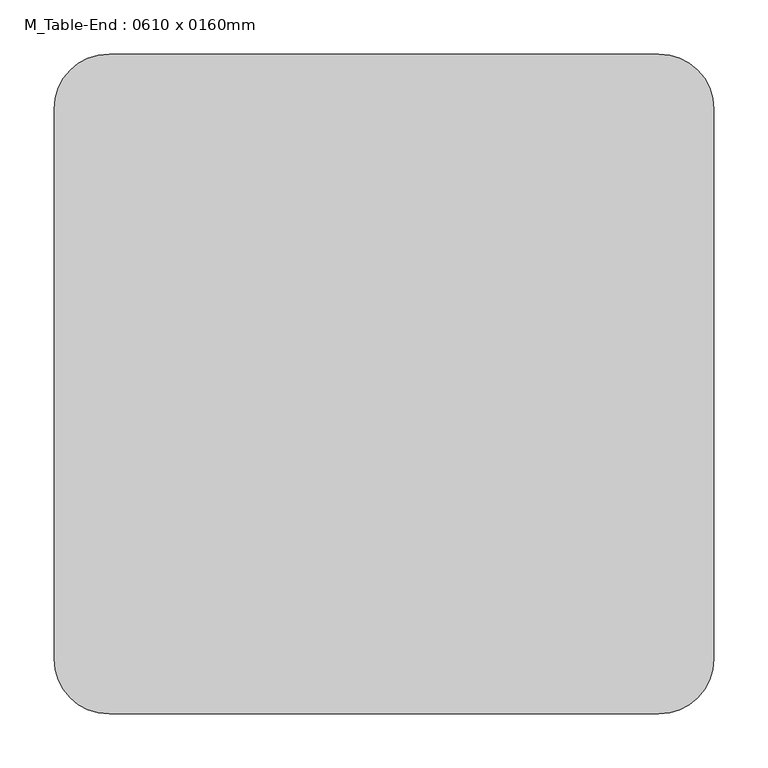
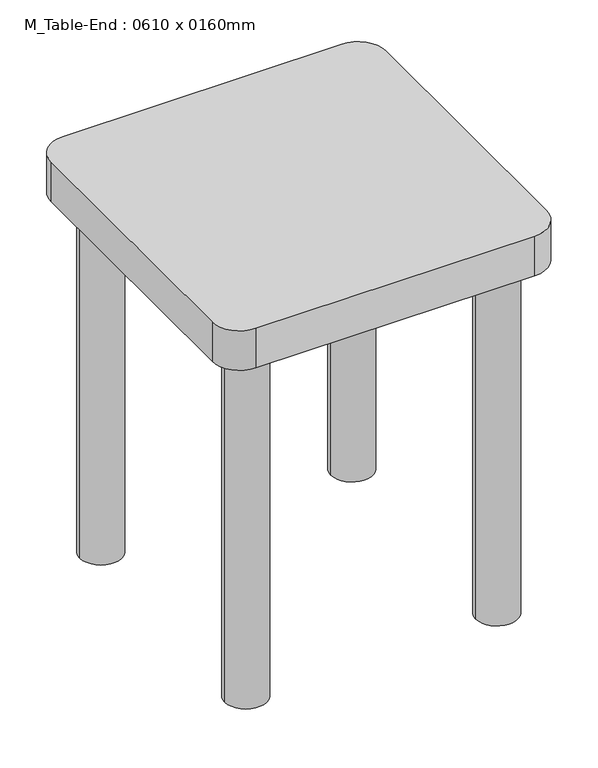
"""IFC4 building model written with IfcOpenShell, lengths in millimetres: furniture geometry, M_Table-End : 0610 x 0160mm."""

from ifc_helpers import new_model, si_unit, point, frame, frame_2d, origin, origin_with_axes, place, context, project, spatial, polyline, circle_curve, trimmed, segment, composite_curve, outline, extrude, source, transform, mapped, element, save


def m_table_end_0610_x_0160mm_e0e5b28f(model_context):
    return source(origin(), model_context, "Body", "SweptSolid", [
        extrude(outline(composite_curve([segment(polyline([(562.9336303, -152.6), (54.5336303, -152.6)]), True, "CONTINUOUS"), segment(trimmed(circle_curve(frame_2d((54.5336303, -101.8)), 50.8), [point((54.5336303, -152.6))], [point((3.7336303, -101.8))], False, "CARTESIAN"), True, "CONTINUOUS"), segment(polyline([(3.7336303, -101.8), (3.7336303, 406.6)]), True, "CONTINUOUS"), segment(trimmed(circle_curve(frame_2d((54.5336303, 406.6)), 50.8), [point((3.7336303, 406.6))], [point((54.5336303, 457.4))], False, "CARTESIAN"), True, "CONTINUOUS"), segment(polyline([(54.5336303, 457.4), (562.9336303, 457.4)]), True, "CONTINUOUS"), segment(trimmed(circle_curve(frame_2d((562.9336303, 406.6)), 50.8), [point((562.9336303, 457.4))], [point((613.7336303, 406.6))], False, "CARTESIAN"), True, "CONTINUOUS"), segment(polyline([(613.7336303, 406.6), (613.7336303, -101.8)]), True, "CONTINUOUS"), segment(trimmed(circle_curve(frame_2d((562.9336303, -101.8)), 50.8), [point((613.7336303, -101.8))], [point((562.9336303, -152.6))], False, "CARTESIAN"), True, "CONTINUOUS")], self_intersect=False)), frame((0.0, 0.0, 685.8), z_axis=(0.0, 0.0, 1.0), x_axis=(1.0, 0.0, 0.0)), (0.0, 0.0, 1.0), 76.2),
        extrude(outline(composite_curve([segment(trimmed(circle_curve(frame_2d((79.9336303, 381.2)), 38.1), [point((41.8336303, 381.2))], [point((118.0336303, 381.2))], False, "CARTESIAN"), True, "CONTINUOUS"), segment(trimmed(circle_curve(frame_2d((79.9336303, 381.2)), 38.1), [point((118.0336303, 381.2))], [point((41.8336303, 381.2))], False, "CARTESIAN"), True, "CONTINUOUS")], self_intersect=False)), origin_with_axes(), (0.0, 0.0, 1.0), 685.8),
        extrude(outline(composite_curve([segment(trimmed(circle_curve(frame_2d((79.9336303, -76.4)), 38.1), [point((41.8336303, -76.4))], [point((118.0336303, -76.4))], False, "CARTESIAN"), True, "CONTINUOUS"), segment(trimmed(circle_curve(frame_2d((79.9336303, -76.4)), 38.1), [point((118.0336303, -76.4))], [point((41.8336303, -76.4))], False, "CARTESIAN"), True, "CONTINUOUS")], self_intersect=False)), origin_with_axes(), (0.0, 0.0, 1.0), 685.8),
        extrude(outline(composite_curve([segment(trimmed(circle_curve(frame_2d((537.5336303, -76.4)), 38.1), [point((499.4336303, -76.4))], [point((575.6336303, -76.4))], False, "CARTESIAN"), True, "CONTINUOUS"), segment(trimmed(circle_curve(frame_2d((537.5336303, -76.4)), 38.1), [point((575.6336303, -76.4))], [point((499.4336303, -76.4))], False, "CARTESIAN"), True, "CONTINUOUS")], self_intersect=False)), origin_with_axes(), (0.0, 0.0, 1.0), 685.8),
        extrude(outline(composite_curve([segment(trimmed(circle_curve(frame_2d((537.5336303, 381.2)), 38.1), [point((499.4336303, 381.2))], [point((575.6336303, 381.2))], False, "CARTESIAN"), True, "CONTINUOUS"), segment(trimmed(circle_curve(frame_2d((537.5336303, 381.2)), 38.1), [point((575.6336303, 381.2))], [point((499.4336303, 381.2))], False, "CARTESIAN"), True, "CONTINUOUS")], self_intersect=False)), origin_with_axes(), (0.0, 0.0, 1.0), 685.8),
    ])


if __name__ == "__main__":
    model = new_model("IFC4")
    model_context = context("Model", 3, world=origin())
    ifc_project = project(units=[si_unit("LENGTHUNIT", "METRE", prefix="MILLI")], contexts=[model_context])
    site = spatial("IfcSite", under=ifc_project)
    building = spatial("IfcBuilding", under=site)
    placement = place(None, origin())
    m_table_end_0610_x_0160mm_shape = m_table_end_0610_x_0160mm_e0e5b28f(model_context)
    element("IfcFurniture", 1, ObjectType="M_Table-End : 0610 x 0160mm", at=placement, inside=building, context=model_context, shape_type="MappedRepresentation", body=[
        mapped(m_table_end_0610_x_0160mm_shape, transform((0.0, 0.0, 0.0), x_axis=(1.0, 0.0, 0.0), y_axis=(0.0, 1.0, 0.0), z_axis=(0.0, 0.0, 1.0))),
    ])
    save(model, "model.ifc")
